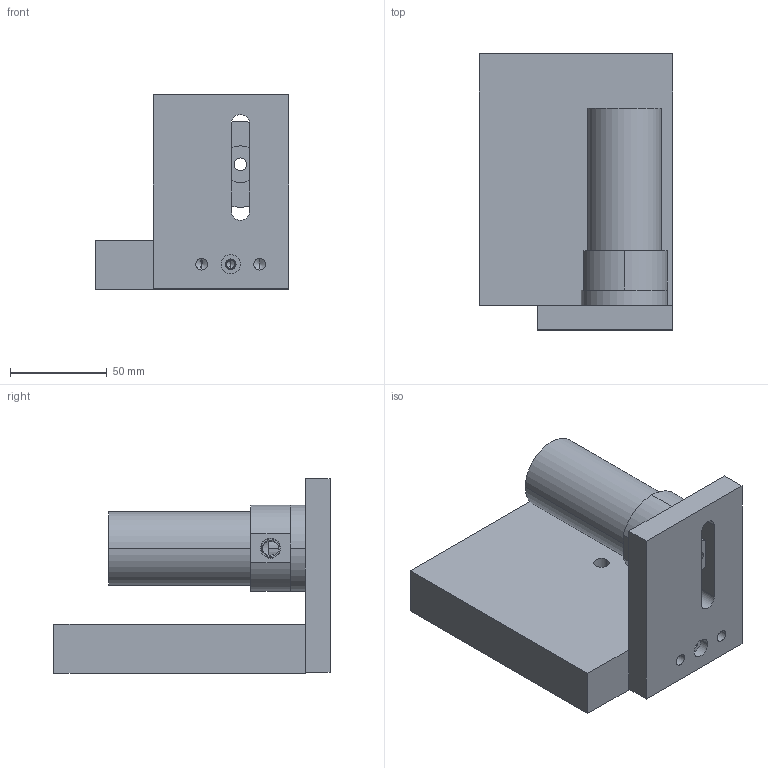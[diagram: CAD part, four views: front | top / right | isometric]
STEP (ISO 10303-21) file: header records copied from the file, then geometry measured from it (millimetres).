
FILE_DESCRIPTION (( 'STEP AP214' ), '1' );
FILE_NAME ('farr_chainstay_mod_73mmbsa.STEP', '2022-06-14T12:56:42', ( '' ), ( '' ), 'SwSTEP 2.0', 'SolidWorks 2021', '' );
FILE_SCHEMA (( 'AUTOMOTIVE_DESIGN' ));
Length unit declared in the file: millimetre
Products named in the file (7): locator; BSA_BB_73mm; support_plate; bb_post; spacer; farr_chainstay_mod_73mmbsa; base
Assembly tree (6 placements, depth 2):
  farr_chainstay_mod_73mmbsa
    base
    support_plate
    locator
    bb_post
    BSA_BB_73mm
    spacer
Bounding box: 100 x 142.7 x 100.5 mm (x, y, z)
Volume: 475689.3 mm3; surface area: 92262.7 mm2
Topology: 6 solids, 6 shells, 92 faces, 220 edges, 139 vertices
Faces by surface type: cylinder 45, plane 32, cone 15
Entity records: 3123 total; most frequent: CARTESIAN_POINT 581, DIRECTION 507, ORIENTED_EDGE 424, EDGE_CURVE 212, AXIS2_PLACEMENT_3D 203, VERTEX_POINT 139, EDGE_LOOP 119, CIRCLE 102
